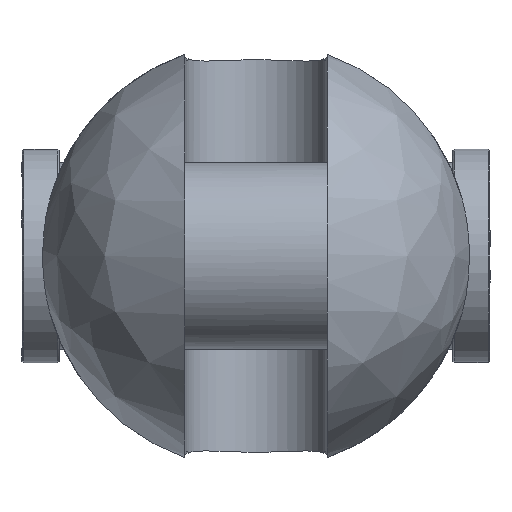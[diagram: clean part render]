
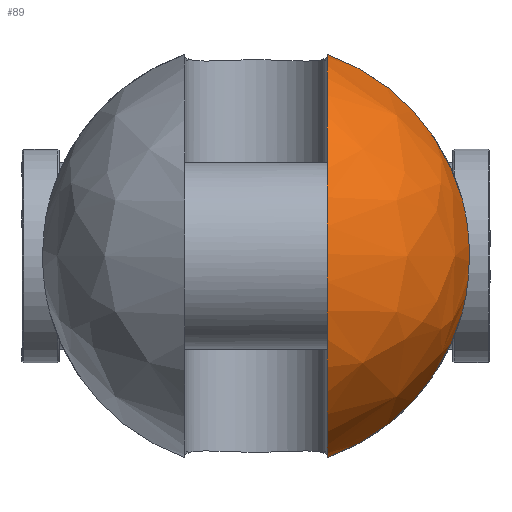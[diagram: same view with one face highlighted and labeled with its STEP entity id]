
A CAD part, left-side view. The second image highlights one B-rep face of the part: STEP entity #89.
In plain terms, the highlighted free-form (B-spline) face has degree [2, 2] with [9, 5] control points.
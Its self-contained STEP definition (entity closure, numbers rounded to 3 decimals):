
#89=ADVANCED_FACE('',(#164),#1301,.T.);
#164=FACE_OUTER_BOUND('',#249,.T.);
#249=EDGE_LOOP('',(#583,#584,#585,#586));
#583=ORIENTED_EDGE('',*,*,#809,.T.);
#584=ORIENTED_EDGE('',*,*,#833,.F.);
#585=ORIENTED_EDGE('',*,*,#845,.T.);
#586=ORIENTED_EDGE('',*,*,#825,.F.);
#809=EDGE_CURVE('',#1188,#1187,#1042,.T.);
#825=EDGE_CURVE('',#1188,#1200,#1052,.T.);
#833=EDGE_CURVE('',#1207,#1187,#1053,.T.);
#845=EDGE_CURVE('',#1207,#1200,#960,.T.);
#960=B_SPLINE_CURVE_WITH_KNOTS('',3,(#3146,#3147,#3148,#3149,#3150,#3151,
#3152,#3153,#3154,#3155,#3156,#3157,#3158,#3159),.UNSPECIFIED.,.F.,.F.,
(4,2,2,2,2,2,4),(0.,4.922,11.207,17.492,
23.778,30.063,34.985),.UNSPECIFIED.);
#1042=(
BOUNDED_CURVE()
B_SPLINE_CURVE(2,(#2914,#2915,#2916,#2917,#2918),.UNSPECIFIED.,.F.,.F.)
B_SPLINE_CURVE_WITH_KNOTS((3,2,3),(-186.601,-93.301,
0.),.UNSPECIFIED.)
CURVE()
GEOMETRIC_REPRESENTATION_ITEM()
RATIONAL_B_SPLINE_CURVE((1.,0.707,1.,0.707,1.))
REPRESENTATION_ITEM('')
);
#1052=(
BOUNDED_CURVE()
B_SPLINE_CURVE(2,(#3016,#3017,#3018),.UNSPECIFIED.,.F.,.F.)
B_SPLINE_CURVE_WITH_KNOTS((3,3),(0.,60.856),.UNSPECIFIED.)
CURVE()
GEOMETRIC_REPRESENTATION_ITEM()
RATIONAL_B_SPLINE_CURVE((1.,0.886,1.))
REPRESENTATION_ITEM('')
);
#1053=(
BOUNDED_CURVE()
B_SPLINE_CURVE(2,(#3073,#3074,#3075),.UNSPECIFIED.,.F.,.F.)
B_SPLINE_CURVE_WITH_KNOTS((3,3),(0.,60.856),.UNSPECIFIED.)
CURVE()
GEOMETRIC_REPRESENTATION_ITEM()
RATIONAL_B_SPLINE_CURVE((1.,0.886,1.))
REPRESENTATION_ITEM('')
);
#1187=VERTEX_POINT('',#2832);
#1188=VERTEX_POINT('',#2833);
#1200=VERTEX_POINT('',#2845);
#1207=VERTEX_POINT('',#2852);
#1301=(
BOUNDED_SURFACE()
B_SPLINE_SURFACE(2,2,((#2440,#2441,#2442,#2443,#2444),(#2445,#2446,#2447,
#2448,#2449),(#2450,#2451,#2452,#2453,#2454),(#2455,#2456,#2457,#2458,#2459),
(#2460,#2461,#2462,#2463,#2464),(#2465,#2466,#2467,#2468,#2469),(#2470,
#2471,#2472,#2473,#2474),(#2475,#2476,#2477,#2478,#2479),(#2480,#2481,#2482,
#2483,#2484)),.UNSPECIFIED.,.T.,.F.,.F.)
B_SPLINE_SURFACE_WITH_KNOTS((3,2,2,2,3),(3,2,3),(0.,98.96,197.92,
296.881,395.841),(0.,98.96,197.92),
 .UNSPECIFIED.)
GEOMETRIC_REPRESENTATION_ITEM()
RATIONAL_B_SPLINE_SURFACE(((1.,0.707,1.,0.707,1.),
(0.707,0.5,0.707,0.5,0.707),(1.,0.707,
1.,0.707,1.),(0.707,0.5,0.707,0.5,0.707),
(1.,0.707,1.,0.707,1.),(0.707,0.5,0.707,
0.5,0.707),(1.,0.707,1.,0.707,1.),(0.707,
0.5,0.707,0.5,0.707),(1.,0.707,1.,0.707,
1.)))
REPRESENTATION_ITEM('')
SURFACE()
);
#2440=CARTESIAN_POINT('',(-91.,0.,0.));
#2441=CARTESIAN_POINT('',(-91.,63.,0.));
#2442=CARTESIAN_POINT('',(-28.,63.,0.));
#2443=CARTESIAN_POINT('',(35.,63.,0.));
#2444=CARTESIAN_POINT('',(35.,0.,0.));
#2445=CARTESIAN_POINT('',(-91.,0.,0.));
#2446=CARTESIAN_POINT('',(-91.,63.,63.));
#2447=CARTESIAN_POINT('',(-28.,63.,63.));
#2448=CARTESIAN_POINT('',(35.,63.,63.));
#2449=CARTESIAN_POINT('',(35.,0.,0.));
#2450=CARTESIAN_POINT('',(-91.,0.,0.));
#2451=CARTESIAN_POINT('',(-91.,0.,63.));
#2452=CARTESIAN_POINT('',(-28.,0.,63.));
#2453=CARTESIAN_POINT('',(35.,0.,63.));
#2454=CARTESIAN_POINT('',(35.,0.,0.));
#2455=CARTESIAN_POINT('',(-91.,0.,0.));
#2456=CARTESIAN_POINT('',(-91.,-63.,63.));
#2457=CARTESIAN_POINT('',(-28.,-63.,63.));
#2458=CARTESIAN_POINT('',(35.,-63.,63.));
#2459=CARTESIAN_POINT('',(35.,0.,0.));
#2460=CARTESIAN_POINT('',(-91.,0.,0.));
#2461=CARTESIAN_POINT('',(-91.,-63.,0.));
#2462=CARTESIAN_POINT('',(-28.,-63.,0.));
#2463=CARTESIAN_POINT('',(35.,-63.,0.));
#2464=CARTESIAN_POINT('',(35.,0.,0.));
#2465=CARTESIAN_POINT('',(-91.,0.,0.));
#2466=CARTESIAN_POINT('',(-91.,-63.,-63.));
#2467=CARTESIAN_POINT('',(-28.,-63.,-63.));
#2468=CARTESIAN_POINT('',(35.,-63.,-63.));
#2469=CARTESIAN_POINT('',(35.,0.,0.));
#2470=CARTESIAN_POINT('',(-91.,0.,0.));
#2471=CARTESIAN_POINT('',(-91.,0.,-63.));
#2472=CARTESIAN_POINT('',(-28.,0.,-63.));
#2473=CARTESIAN_POINT('',(35.,0.,-63.));
#2474=CARTESIAN_POINT('',(35.,0.,0.));
#2475=CARTESIAN_POINT('',(-91.,0.,0.));
#2476=CARTESIAN_POINT('',(-91.,63.,-63.));
#2477=CARTESIAN_POINT('',(-28.,63.,-63.));
#2478=CARTESIAN_POINT('',(35.,63.,-63.));
#2479=CARTESIAN_POINT('',(35.,0.,0.));
#2480=CARTESIAN_POINT('',(-91.,0.,0.));
#2481=CARTESIAN_POINT('',(-91.,63.,0.));
#2482=CARTESIAN_POINT('',(-28.,63.,0.));
#2483=CARTESIAN_POINT('',(35.,63.,0.));
#2484=CARTESIAN_POINT('',(35.,0.,0.));
#2832=CARTESIAN_POINT('',(-28.,-21.,-59.397));
#2833=CARTESIAN_POINT('',(-28.,-21.,59.397));
#2845=CARTESIAN_POINT('',(-28.,-60.801,16.5));
#2852=CARTESIAN_POINT('',(-28.,-60.801,-16.5));
#2914=CARTESIAN_POINT('',(-28.,-21.,59.397));
#2915=CARTESIAN_POINT('',(-87.397,-21.,59.397));
#2916=CARTESIAN_POINT('',(-87.397,-21.,0.));
#2917=CARTESIAN_POINT('',(-87.397,-21.,-59.397));
#2918=CARTESIAN_POINT('',(-28.,-21.,-59.397));
#3016=CARTESIAN_POINT('',(-28.,-21.,59.397));
#3017=CARTESIAN_POINT('',(-28.,-52.148,48.384));
#3018=CARTESIAN_POINT('',(-28.,-60.801,16.5));
#3073=CARTESIAN_POINT('',(-28.,-60.801,-16.5));
#3074=CARTESIAN_POINT('',(-28.,-52.148,-48.384));
#3075=CARTESIAN_POINT('',(-28.,-21.,-59.397));
#3146=CARTESIAN_POINT('',(-28.,-60.801,-16.5));
#3147=CARTESIAN_POINT('',(-28.816,-61.177,-15.115));
#3148=CARTESIAN_POINT('',(-29.541,-61.507,-13.648));
#3149=CARTESIAN_POINT('',(-30.932,-62.138,-10.189));
#3150=CARTESIAN_POINT('',(-31.528,-62.405,-8.159));
#3151=CARTESIAN_POINT('',(-32.312,-62.756,-4.065));
#3152=CARTESIAN_POINT('',(-32.5,-62.839,-2.001));
#3153=CARTESIAN_POINT('',(-32.5,-62.839,2.001));
#3154=CARTESIAN_POINT('',(-32.312,-62.756,4.065));
#3155=CARTESIAN_POINT('',(-31.528,-62.405,8.159));
#3156=CARTESIAN_POINT('',(-30.932,-62.138,10.189));
#3157=CARTESIAN_POINT('',(-29.541,-61.507,13.648));
#3158=CARTESIAN_POINT('',(-28.816,-61.177,15.115));
#3159=CARTESIAN_POINT('',(-28.,-60.801,16.5));
